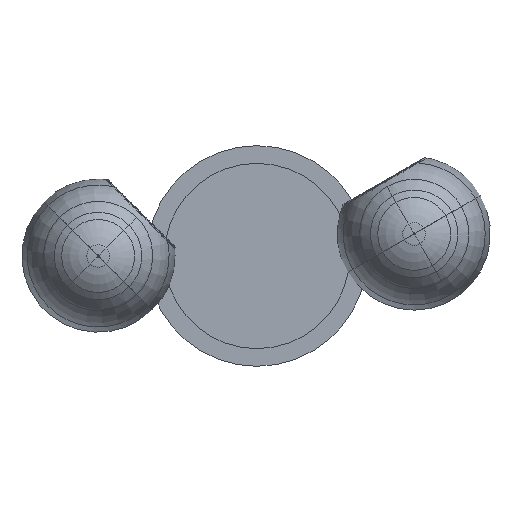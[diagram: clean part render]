
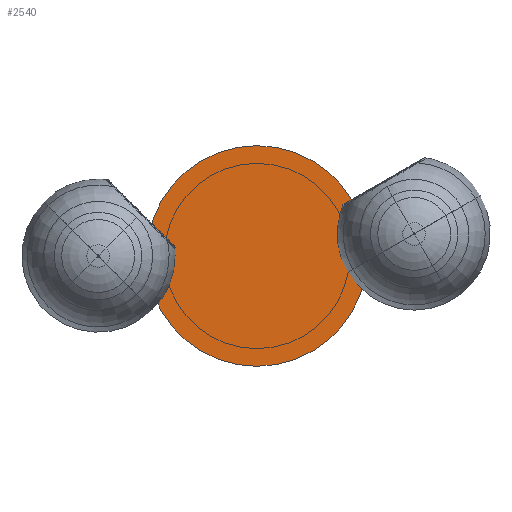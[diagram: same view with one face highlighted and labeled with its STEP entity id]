
A CAD part, front view. The second image highlights one B-rep face of the part: STEP entity #2540.
In plain terms, the highlighted planar face has unit normal (0, -1, 0).
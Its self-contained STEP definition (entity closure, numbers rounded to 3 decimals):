
#473 = DIRECTION ( 'NONE',  ( 0., 0., -1. ) ) ;
#690 = VERTEX_POINT ( 'NONE', #8036 ) ;
#1085 = DIRECTION ( 'NONE',  ( 0., 0., -1. ) ) ;
#1500 = ORIENTED_EDGE ( 'NONE', *, *, #1626, .T. ) ;
#1559 = EDGE_CURVE ( 'NONE', #9987, #690, #10769, .T. ) ;
#1626 = EDGE_CURVE ( 'NONE', #690, #9987, #4163, .T. ) ;
#1934 = FACE_OUTER_BOUND ( 'NONE', #11709, .T. ) ;
#2540 = ADVANCED_FACE ( 'NONE', ( #1934 ), #13261, .T. ) ;
#3038 = DIRECTION ( 'NONE',  ( 0., 0., -1. ) ) ;
#3125 = ORIENTED_EDGE ( 'NONE', *, *, #1559, .T. ) ;
#4163 = CIRCLE ( 'NONE', #5824, 125. ) ;
#5824 = AXIS2_PLACEMENT_3D ( 'NONE', #12913, #10600, #473 ) ;
#6308 = AXIS2_PLACEMENT_3D ( 'NONE', #9764, #9840, #3038 ) ;
#8036 = CARTESIAN_POINT ( 'NONE',  ( 0., -15., 125. ) ) ;
#9764 = CARTESIAN_POINT ( 'NONE',  ( 0., -15., -125. ) ) ;
#9840 = DIRECTION ( 'NONE',  ( 0., -1., 0. ) ) ;
#9987 = VERTEX_POINT ( 'NONE', #11005 ) ;
#10311 = DIRECTION ( 'NONE',  ( 0., -1., 0. ) ) ;
#10600 = DIRECTION ( 'NONE',  ( 0., -1., 0. ) ) ;
#10769 = CIRCLE ( 'NONE', #14552, 125. ) ;
#11005 = CARTESIAN_POINT ( 'NONE',  ( 0., -15., -125. ) ) ;
#11709 = EDGE_LOOP ( 'NONE', ( #3125, #1500 ) ) ;
#12402 = CARTESIAN_POINT ( 'NONE',  ( 0., -15., 0. ) ) ;
#12913 = CARTESIAN_POINT ( 'NONE',  ( 0., -15., 0. ) ) ;
#13261 = PLANE ( 'NONE',  #6308 ) ;
#14552 = AXIS2_PLACEMENT_3D ( 'NONE', #12402, #10311, #1085 ) ;
